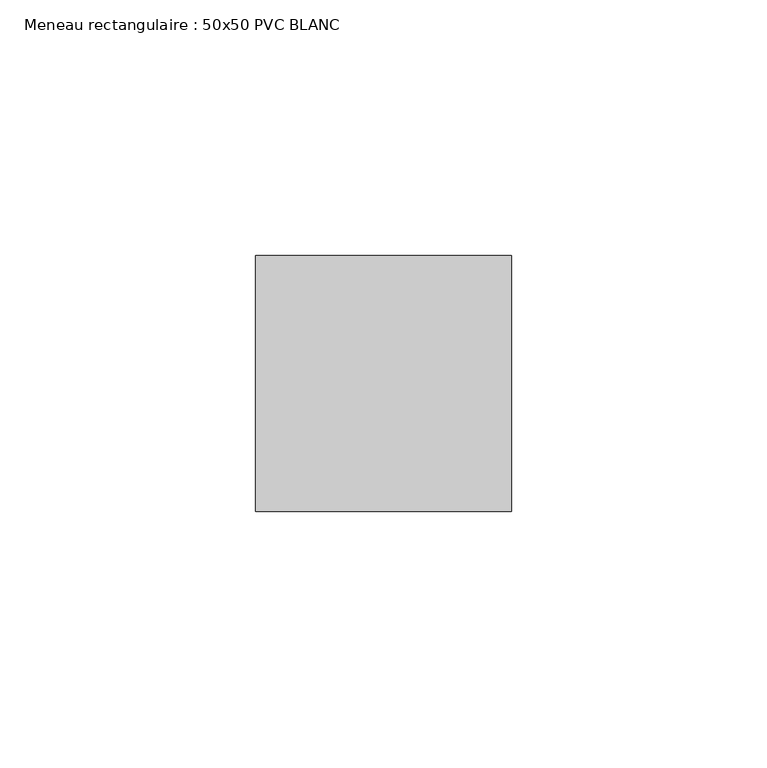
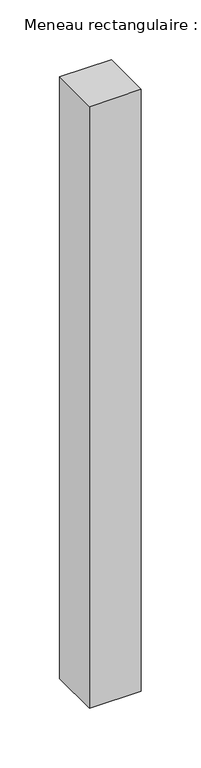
"""IFC4 building model written with IfcOpenShell, lengths in millimetres: member geometry, Meneau rectangulaire : 50x50 PVC BLANC."""

import ifcopenshell
import ifcopenshell.guid

model = None  # the IFC model being written
_history = None  # IfcOwnerHistory: only IFC2X3 demands one
_inside = {}  # id of a spatial element -> (the spatial element, [elements in it])
_under = {}  # id of a project, library or spatial element -> (it, [spatial elements below it])
_declared = {}  # id of a project -> (the project, [libraries it declares])
_typed = {}  # id of a type object -> (the type object, [elements of that type])
_made_of = {}  # id of a material, layer set ... -> (it, [elements and type objects made of it])


def new_model(schema):
    """Start an empty IFC model of exactly this schema.

    Asked for "IFC4X3", IfcOpenShell would pick the latest addendum, in which some entities
    have other attributes; the version numbers below select the first issue.
    IFC2X3 requires an IfcOwnerHistory on every rooted entity: one is made here for all.
    """
    global model, _history
    if schema == "IFC4X3":
        model = ifcopenshell.file(schema_version=(4, 3, 0, 0))
    else:
        model = ifcopenshell.file(schema=schema)
    _inside.clear()
    _under.clear()
    _declared.clear()
    _typed.clear()
    _made_of.clear()
    _history = None
    if model.schema == "IFC2X3":
        org = make("IfcOrganization", Name="unknown")
        user = make(
            "IfcPersonAndOrganization",
            ThePerson=make("IfcPerson", FamilyName="unknown"),
            TheOrganization=org,
        )
        app = make(
            "IfcApplication",
            ApplicationDeveloper=org,
            Version="unknown",
            ApplicationFullName="unknown",
            ApplicationIdentifier="unknown",
        )
        _history = make(
            "IfcOwnerHistory",
            OwningUser=user,
            OwningApplication=app,
            ChangeAction="ADDED",
            CreationDate=0,
        )
    return model


def make(cls, **values):
    """One entity of the class cls with the attributes given. An attribute that is None is left unset."""
    return model.create_entity(
        cls, **{name: value for name, value in values.items() if value is not None}
    )


def rooted(cls, **values):
    """An entity with a GlobalId (a new one), such as an element, a storey or a relation."""
    return make(cls, GlobalId=ifcopenshell.guid.new(), OwnerHistory=_history, **values)


def si_unit(unit_type, name, prefix=None):
    """IfcSIUnit, for example si_unit("LENGTHUNIT", "METRE", prefix="MILLI")."""
    return make("IfcSIUnit", UnitType=unit_type, Prefix=prefix, Name=name)


def assignment(units):
    """IfcUnitAssignment: the units of a project."""
    return None if units is None else make("IfcUnitAssignment", Units=units)


def point(xyz):
    """IfcCartesianPoint."""
    return None if xyz is None else make("IfcCartesianPoint", Coordinates=xyz)


def direction(xyz):
    """IfcDirection."""
    return None if xyz is None else make("IfcDirection", DirectionRatios=xyz)


def frame(location, z_axis=None, x_axis=None):
    """IfcAxis2Placement3D, a coordinate frame: its origin and axes. An axis left out is left unset."""
    return make(
        "IfcAxis2Placement3D",
        Location=point(location),
        Axis=direction(z_axis),
        RefDirection=direction(x_axis),
    )


def origin():
    """The frame at (0, 0, 0) with its axes left unset."""
    return frame((0.0, 0.0, 0.0))


def place(relative_to, where):
    """IfcLocalPlacement: puts the frame where relative to a parent placement (None: the world)."""
    return make(
        "IfcLocalPlacement", PlacementRelTo=relative_to, RelativePlacement=where
    )


def context(
    kind, dimensions, precision=None, world=None, true_north=None, identifier=None
):
    """IfcGeometricRepresentationContext, for example the 3D "Model" context."""
    return make(
        "IfcGeometricRepresentationContext",
        ContextIdentifier=identifier,
        ContextType=kind,
        CoordinateSpaceDimension=dimensions,
        Precision=precision,
        WorldCoordinateSystem=world,
        TrueNorth=true_north,
    )


def project(units=None, contexts=None):
    """IfcProject with its units and contexts."""
    return rooted(
        "IfcProject",
        Name="project",
        RepresentationContexts=contexts,
        UnitsInContext=assignment(units),
    )


def spatial(cls, under=None, at=None, **own):
    """A site, building, storey or space (cls), placed at a placement, below another one or the project."""
    s = rooted(cls, ObjectPlacement=at, **own)
    if under is not None:
        _under.setdefault(under.id(), (under, []))[1].append(s)
    return s


def polyline(points):
    """IfcPolyline through the points."""
    return make("IfcPolyline", Points=[point(p) for p in points])


def outline(outer, holes=None, kind="AREA"):
    """IfcArbitraryClosedProfileDef: a profile drawn as a closed curve; with holes, ...WithVoids."""
    if holes is None:
        return make("IfcArbitraryClosedProfileDef", ProfileType=kind, OuterCurve=outer)
    return make(
        "IfcArbitraryProfileDefWithVoids",
        ProfileType=kind,
        OuterCurve=outer,
        InnerCurves=holes,
    )


def extrude(swept, where, along, depth):
    """IfcExtrudedAreaSolid: the profile swept, set in the frame where, extruded along a direction by depth."""
    return make(
        "IfcExtrudedAreaSolid",
        SweptArea=swept,
        Position=where,
        ExtrudedDirection=direction(along),
        Depth=depth,
    )


def shape(context_of_items, identifier, shape_type, items):
    """IfcShapeRepresentation: the items that make up one representation, for example the "Body"."""
    return make(
        "IfcShapeRepresentation",
        ContextOfItems=context_of_items,
        RepresentationIdentifier=identifier,
        RepresentationType=shape_type,
        Items=items,
    )


def source(mapping_origin, context_of_items, identifier, shape_type, items):
    """IfcRepresentationMap: a shape defined once, which mapped items show again and again."""
    return make(
        "IfcRepresentationMap",
        MappingOrigin=mapping_origin,
        MappedRepresentation=shape(context_of_items, identifier, shape_type, items),
    )


def transform(
    local_origin,
    x_axis=None,
    y_axis=None,
    z_axis=None,
    scale=None,
    scale2=None,
    scale3=None,
    uniform=True,
):
    """IfcCartesianTransformationOperator3D, or its non-uniform kind. x_axis, y_axis, z_axis: its Axis1, 2, 3."""
    if uniform:
        return make(
            "IfcCartesianTransformationOperator3D",
            Axis1=direction(x_axis),
            Axis2=direction(y_axis),
            LocalOrigin=point(local_origin),
            Scale=scale,
            Axis3=direction(z_axis),
        )
    return make(
        "IfcCartesianTransformationOperator3DnonUniform",
        Axis1=direction(x_axis),
        Axis2=direction(y_axis),
        LocalOrigin=point(local_origin),
        Scale=scale,
        Axis3=direction(z_axis),
        Scale2=scale2,
        Scale3=scale3,
    )


def mapped(mapping_source, mapping_target):
    """IfcMappedItem: shows the shape of a source again, moved by a transform."""
    return make(
        "IfcMappedItem", MappingSource=mapping_source, MappingTarget=mapping_target
    )


def made_of(thing, what):
    """Note that an element or type object is made of a material, layer set ...; save() writes the relation."""
    if what is not None:
        _made_of.setdefault(what.id(), (what, []))[1].append(thing)
    return thing


def element(
    cls,
    number,
    at=None,
    inside=None,
    cuts=None,
    type_object=None,
    material=None,
    context=None,
    identifier="Body",
    shape_type=None,
    held_by="IfcProductDefinitionShape",
    body=None,
    shapes=None,
    **own,
):
    """One element of the class cls, such as IfcWall. Its Tag is "e" and its number.

    at: its placement. inside: the storey or other place that contains it. cuts: it is an
    opening in that element (IfcRelVoidsElement). A single representation is given by context,
    identifier, shape_type and body (its items); several are given by shapes. held_by: the class
    of the entity that holds the representations. save() writes the other relations.
    """
    e = rooted(cls, Tag="e%d" % number, ObjectPlacement=at, **own)
    if body is not None:
        shapes = [shape(context, identifier, shape_type, body)]
    if shapes is not None:
        e.Representation = make(held_by, Representations=shapes)
    if inside is not None:
        _inside.setdefault(inside.id(), (inside, []))[1].append(e)
    if cuts is not None:
        rooted(
            "IfcRelVoidsElement", RelatingBuildingElement=cuts, RelatedOpeningElement=e
        )
    if type_object is not None:
        _typed.setdefault(type_object.id(), (type_object, []))[1].append(e)
    return made_of(e, material)


def aggregate(whole, parts):
    """IfcRelAggregates: a whole, such as a stair, and the parts it consists of."""
    return rooted("IfcRelAggregates", RelatingObject=whole, RelatedObjects=parts)


def save(model, path):
    """Write the relations noted so far, then the file.

    IfcRelAggregates (storeys below a building ...), IfcRelContainedInSpatialStructure (elements
    in a storey), IfcRelDefinesByType, IfcRelAssociatesMaterial and IfcRelDeclares: one each for
    every whole, place, type object, material and project.
    """
    for whole, parts in _under.values():
        aggregate(whole, parts)
    for where, things in _inside.values():
        rooted(
            "IfcRelContainedInSpatialStructure",
            RelatedElements=things,
            RelatingStructure=where,
        )
    for kind, things in _typed.values():
        rooted("IfcRelDefinesByType", RelatedObjects=things, RelatingType=kind)
    for what, things in _made_of.values():
        rooted("IfcRelAssociatesMaterial", RelatedObjects=things, RelatingMaterial=what)
    for by, libraries in _declared.values():
        rooted("IfcRelDeclares", RelatingContext=by, RelatedDefinitions=libraries)
    model.write(path)


def meneau_rectangulaire_50x50_pvc_blanc_8d3a6657(model_context):
    return source(origin(), model_context, "Body", "SweptSolid", [
        extrude(outline(polyline([(0.0, 0.0), (0.0, -50.0), (-50.0, -50.0), (-50.0, 0.0), (0.0, 0.0)])), frame((0.0, 0.0, -614.1276905), z_axis=(0.0, 0.0, 1.0), x_axis=(1.0, 0.0, 0.0)), (0.0, 0.0, 1.0), 614.1276905),
    ])


if __name__ == "__main__":
    model = new_model("IFC4")
    model_context = context("Model", 3, world=origin())
    ifc_project = project(units=[si_unit("LENGTHUNIT", "METRE", prefix="MILLI")], contexts=[model_context])
    site = spatial("IfcSite", under=ifc_project)
    building = spatial("IfcBuilding", under=site)
    placement = place(None, origin())
    meneau_rectangulaire_50x50_pvc_blanc_shape = meneau_rectangulaire_50x50_pvc_blanc_8d3a6657(model_context)
    element("IfcMember", 1, ObjectType="Meneau rectangulaire : 50x50 PVC BLANC", at=placement, inside=building, context=model_context, shape_type="MappedRepresentation", body=[
        mapped(meneau_rectangulaire_50x50_pvc_blanc_shape, transform((0.0, 0.0, 0.0), x_axis=(1.0, 0.0, 0.0), y_axis=(0.0, 1.0, 0.0), z_axis=(0.0, 0.0, 1.0))),
    ])
    save(model, "model.ifc")
